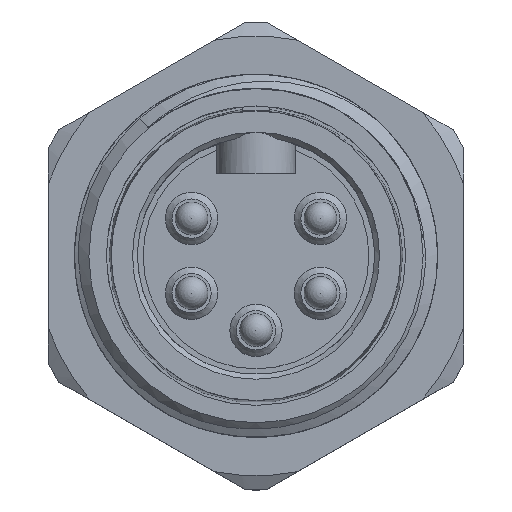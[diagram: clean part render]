
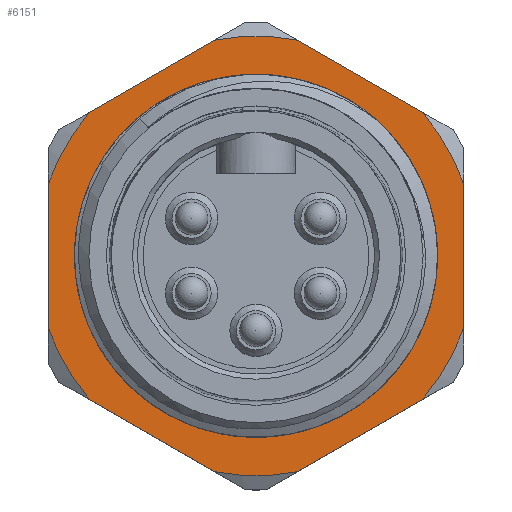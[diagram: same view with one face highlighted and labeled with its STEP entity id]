
A CAD part, top view. The second image highlights one B-rep face of the part: STEP entity #6151.
In plain terms, the highlighted planar face has unit normal (0, 0, 1).
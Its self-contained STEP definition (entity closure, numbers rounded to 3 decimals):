
#37 = CARTESIAN_POINT ( 'NONE',  ( -2.557, -13.188, -8. ) ) ;
#78 = CARTESIAN_POINT ( 'NONE',  ( 2.557, -13.188, -8. ) ) ;
#125 = VERTEX_POINT ( 'NONE', #6072 ) ;
#132 = VERTEX_POINT ( 'NONE', #2521 ) ;
#142 = CIRCLE ( 'NONE', #1233, 13.434 ) ;
#152 = CARTESIAN_POINT ( 'NONE',  ( -2.557, 13.188, -8. ) ) ;
#155 = EDGE_CURVE ( 'NONE', #5413, #132, #1543, .T. ) ;
#158 = ORIENTED_EDGE ( 'NONE', *, *, #441, .T. ) ;
#168 = CARTESIAN_POINT ( 'NONE',  ( 12.7, 4.38, -8. ) ) ;
#211 = VECTOR ( 'NONE', #2717, 1000. ) ;
#227 = CARTESIAN_POINT ( 'NONE',  ( 0., 0., -8. ) ) ;
#353 = ORIENTED_EDGE ( 'NONE', *, *, #5602, .F. ) ;
#389 = CIRCLE ( 'NONE', #3184, 13.434 ) ;
#441 = EDGE_CURVE ( 'NONE', #5831, #3022, #3567, .T. ) ;
#500 = ORIENTED_EDGE ( 'NONE', *, *, #5241, .T. ) ;
#581 = DIRECTION ( 'NONE',  ( 0., 0., 1. ) ) ;
#644 = CARTESIAN_POINT ( 'NONE',  ( 0., 0., -8. ) ) ;
#653 = ORIENTED_EDGE ( 'NONE', *, *, #1752, .F. ) ;
#656 = EDGE_LOOP ( 'NONE', ( #4866, #1161, #2097, #5102, #1869, #2914, #500, #353, #1240, #4705, #158, #4229 ) ) ;
#670 = AXIS2_PLACEMENT_3D ( 'NONE', #644, #581, #4762 ) ;
#771 = EDGE_CURVE ( 'NONE', #6571, #3022, #5499, .T. ) ;
#1007 = CARTESIAN_POINT ( 'NONE',  ( 0., 0., -8. ) ) ;
#1073 = CARTESIAN_POINT ( 'NONE',  ( 12.042, -7.712, -8. ) ) ;
#1161 = ORIENTED_EDGE ( 'NONE', *, *, #2787, .F. ) ;
#1166 = DIRECTION ( 'NONE',  ( 1., 0., 0. ) ) ;
#1212 = DIRECTION ( 'NONE',  ( 0., 0., 1. ) ) ;
#1233 = AXIS2_PLACEMENT_3D ( 'NONE', #1007, #3756, #6274 ) ;
#1240 = ORIENTED_EDGE ( 'NONE', *, *, #1434, .T. ) ;
#1434 = EDGE_CURVE ( 'NONE', #4482, #5670, #142, .T. ) ;
#1435 = LINE ( 'NONE', #1603, #211 ) ;
#1454 = LINE ( 'NONE', #4307, #5423 ) ;
#1543 = LINE ( 'NONE', #4507, #4841 ) ;
#1553 = DIRECTION ( 'NONE',  ( 0., 0., 1. ) ) ;
#1603 = CARTESIAN_POINT ( 'NONE',  ( -0.658, 14.285, -8. ) ) ;
#1622 = DIRECTION ( 'NONE',  ( 0., 0., -1. ) ) ;
#1752 = EDGE_CURVE ( 'NONE', #125, #125, #2251, .T. ) ;
#1768 = VERTEX_POINT ( 'NONE', #168 ) ;
#1869 = ORIENTED_EDGE ( 'NONE', *, *, #4284, .T. ) ;
#1988 = EDGE_CURVE ( 'NONE', #6571, #5659, #5189, .T. ) ;
#2021 = DIRECTION ( 'NONE',  ( -0.866, 0.5, 0. ) ) ;
#2097 = ORIENTED_EDGE ( 'NONE', *, *, #4792, .T. ) ;
#2231 = DIRECTION ( 'NONE',  ( 1., 0., 0. ) ) ;
#2251 = CIRCLE ( 'NONE', #6171, 9.9 ) ;
#2415 = CARTESIAN_POINT ( 'NONE',  ( -12.7, 6.573, -8. ) ) ;
#2417 = VERTEX_POINT ( 'NONE', #152 ) ;
#2436 = AXIS2_PLACEMENT_3D ( 'NONE', #2804, #5397, #5379 ) ;
#2510 = EDGE_LOOP ( 'NONE', ( #653 ) ) ;
#2521 = CARTESIAN_POINT ( 'NONE',  ( 10.143, 8.809, -8. ) ) ;
#2524 = VERTEX_POINT ( 'NONE', #4210 ) ;
#2603 = CARTESIAN_POINT ( 'NONE',  ( 2.557, 13.188, -8. ) ) ;
#2717 = DIRECTION ( 'NONE',  ( 0.866, 0.5, 0. ) ) ;
#2787 = EDGE_CURVE ( 'NONE', #1768, #5659, #1454, .T. ) ;
#2804 = CARTESIAN_POINT ( 'NONE',  ( 0., 0., -8. ) ) ;
#2914 = ORIENTED_EDGE ( 'NONE', *, *, #5869, .F. ) ;
#2954 = DIRECTION ( 'NONE',  ( 0., 1., 0. ) ) ;
#2979 = FACE_OUTER_BOUND ( 'NONE', #656, .T. ) ;
#3022 = VERTEX_POINT ( 'NONE', #78 ) ;
#3184 = AXIS2_PLACEMENT_3D ( 'NONE', #6272, #1553, #5171 ) ;
#3227 = FACE_BOUND ( 'NONE', #2510, .T. ) ;
#3307 = DIRECTION ( 'NONE',  ( 0., -1., 0. ) ) ;
#3386 = CARTESIAN_POINT ( 'NONE',  ( -12.7, -4.38, -8. ) ) ;
#3567 = CIRCLE ( 'NONE', #2436, 13.434 ) ;
#3622 = DIRECTION ( 'NONE',  ( 0.866, -0.5, 0. ) ) ;
#3637 = VECTOR ( 'NONE', #2954, 1000. ) ;
#3650 = CARTESIAN_POINT ( 'NONE',  ( 12.7, -4.38, -8. ) ) ;
#3651 = CARTESIAN_POINT ( 'NONE',  ( 0., 9.9, -8. ) ) ;
#3756 = DIRECTION ( 'NONE',  ( 0., 0., 1. ) ) ;
#3887 = VECTOR ( 'NONE', #4427, 1000. ) ;
#3983 = CARTESIAN_POINT ( 'NONE',  ( -12.7, 4.38, -8. ) ) ;
#4153 = DIRECTION ( 'NONE',  ( 1., 0., 0. ) ) ;
#4189 = PLANE ( 'NONE',  #5749 ) ;
#4210 = CARTESIAN_POINT ( 'NONE',  ( -10.143, 8.809, -8. ) ) ;
#4229 = ORIENTED_EDGE ( 'NONE', *, *, #771, .F. ) ;
#4240 = EDGE_CURVE ( 'NONE', #5831, #5670, #4758, .T. ) ;
#4284 = EDGE_CURVE ( 'NONE', #5413, #2417, #5495, .T. ) ;
#4307 = CARTESIAN_POINT ( 'NONE',  ( 12.7, 6.573, -8. ) ) ;
#4427 = DIRECTION ( 'NONE',  ( -0.866, -0.5, 0. ) ) ;
#4482 = VERTEX_POINT ( 'NONE', #3386 ) ;
#4507 = CARTESIAN_POINT ( 'NONE',  ( 0.658, 14.285, -8. ) ) ;
#4588 = CARTESIAN_POINT ( 'NONE',  ( -12.042, -7.712, -8. ) ) ;
#4705 = ORIENTED_EDGE ( 'NONE', *, *, #4240, .F. ) ;
#4720 = DIRECTION ( 'NONE',  ( 0., -1., 0. ) ) ;
#4758 = LINE ( 'NONE', #4588, #5417 ) ;
#4762 = DIRECTION ( 'NONE',  ( 1., 0., 0. ) ) ;
#4792 = EDGE_CURVE ( 'NONE', #1768, #132, #6290, .T. ) ;
#4841 = VECTOR ( 'NONE', #3622, 1000. ) ;
#4866 = ORIENTED_EDGE ( 'NONE', *, *, #1988, .T. ) ;
#5102 = ORIENTED_EDGE ( 'NONE', *, *, #155, .F. ) ;
#5141 = CARTESIAN_POINT ( 'NONE',  ( -10.143, -8.809, -8. ) ) ;
#5163 = DIRECTION ( 'NONE',  ( 0., 0., 1. ) ) ;
#5171 = DIRECTION ( 'NONE',  ( 1., 0., 0. ) ) ;
#5188 = CARTESIAN_POINT ( 'NONE',  ( 0., 0., -8. ) ) ;
#5189 = CIRCLE ( 'NONE', #6231, 13.434 ) ;
#5241 = EDGE_CURVE ( 'NONE', #2524, #6673, #389, .T. ) ;
#5320 = CARTESIAN_POINT ( 'NONE',  ( 0., 0., -8. ) ) ;
#5379 = DIRECTION ( 'NONE',  ( 1., 0., 0. ) ) ;
#5397 = DIRECTION ( 'NONE',  ( 0., 0., 1. ) ) ;
#5413 = VERTEX_POINT ( 'NONE', #2603 ) ;
#5417 = VECTOR ( 'NONE', #2021, 1000. ) ;
#5423 = VECTOR ( 'NONE', #3307, 1000. ) ;
#5495 = CIRCLE ( 'NONE', #6064, 13.434 ) ;
#5499 = LINE ( 'NONE', #1073, #3887 ) ;
#5602 = EDGE_CURVE ( 'NONE', #4482, #6673, #5966, .T. ) ;
#5659 = VERTEX_POINT ( 'NONE', #3650 ) ;
#5670 = VERTEX_POINT ( 'NONE', #5141 ) ;
#5749 = AXIS2_PLACEMENT_3D ( 'NONE', #3651, #1622, #4720 ) ;
#5831 = VERTEX_POINT ( 'NONE', #37 ) ;
#5869 = EDGE_CURVE ( 'NONE', #2524, #2417, #1435, .T. ) ;
#5966 = LINE ( 'NONE', #2415, #3637 ) ;
#6032 = CARTESIAN_POINT ( 'NONE',  ( 10.143, -8.809, -8. ) ) ;
#6064 = AXIS2_PLACEMENT_3D ( 'NONE', #5188, #5163, #4153 ) ;
#6072 = CARTESIAN_POINT ( 'NONE',  ( 9.9, 0., -8. ) ) ;
#6151 = ADVANCED_FACE ( 'NONE', ( #2979, #3227 ), #4189, .F. ) ;
#6171 = AXIS2_PLACEMENT_3D ( 'NONE', #5320, #6332, #1166 ) ;
#6231 = AXIS2_PLACEMENT_3D ( 'NONE', #227, #1212, #2231 ) ;
#6272 = CARTESIAN_POINT ( 'NONE',  ( 0., 0., -8. ) ) ;
#6274 = DIRECTION ( 'NONE',  ( 1., 0., 0. ) ) ;
#6290 = CIRCLE ( 'NONE', #670, 13.434 ) ;
#6332 = DIRECTION ( 'NONE',  ( 0., 0., 1. ) ) ;
#6571 = VERTEX_POINT ( 'NONE', #6032 ) ;
#6673 = VERTEX_POINT ( 'NONE', #3983 ) ;
